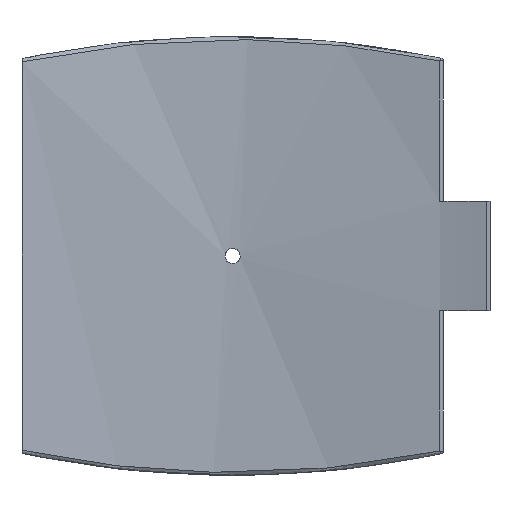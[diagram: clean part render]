
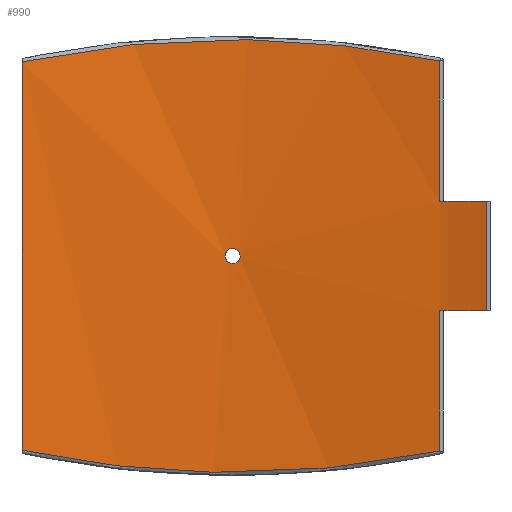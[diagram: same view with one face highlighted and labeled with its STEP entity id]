
A CAD part, front view. The second image highlights one B-rep face of the part: STEP entity #990.
In plain terms, the highlighted cylindrical face has radius 600 mm (diameter 1200 mm), a partial arc.
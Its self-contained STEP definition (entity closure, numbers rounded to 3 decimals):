
#55=FACE_BOUND('',#331,.T.);
#101=B_SPLINE_CURVE_WITH_KNOTS('',3,(#2008,#2009,#2010,#2011,#2012,#2013,
#2014),.UNSPECIFIED.,.F.,.F.,(4,1,1,1,4),(-32.825,-24.503,
-16.181,-12.02,-3.698),.UNSPECIFIED.);
#102=B_SPLINE_CURVE_WITH_KNOTS('',3,(#2023,#2024,#2025,#2026,#2027,#2028,
#2029),.UNSPECIFIED.,.F.,.F.,(4,1,1,1,4),(-29.583,-21.261,
-12.939,-8.779,-0.457),.UNSPECIFIED.);
#103=B_SPLINE_CURVE_WITH_KNOTS('',3,(#2032,#2033,#2034,#2035,#2036,#2037,
#2038,#2039,#2040,#2041),.UNSPECIFIED.,.F.,.F.,(4,2,2,2,4),(0.,0.196,
0.392,0.588,0.784),.UNSPECIFIED.);
#104=B_SPLINE_CURVE_WITH_KNOTS('',3,(#2042,#2043,#2044,#2045,#2046,#2047,
#2048,#2049,#2050,#2051,#2052,#2053,#2054,#2055,#2056,#2057,#2058,#2059,
#2060,#2061,#2062,#2063,#2064,#2065,#2066,#2067),.UNSPECIFIED.,.F.,.F.,
(4,2,2,2,2,2,2,2,2,2,2,2,4),(0.784,0.979,1.175,
1.371,1.567,1.763,1.959,2.155,
2.351,2.546,2.742,2.938,3.134),
 .UNSPECIFIED.);
#125=LINE('',#1483,#172);
#136=LINE('',#1746,#183);
#143=LINE('',#2019,#190);
#144=LINE('',#2022,#191);
#172=VECTOR('',#1188,10.);
#183=VECTOR('',#1227,10.);
#190=VECTOR('',#1264,10.);
#191=VECTOR('',#1267,10.);
#228=CYLINDRICAL_SURFACE('',#1083,600.);
#268=FACE_OUTER_BOUND('',#330,.T.);
#330=EDGE_LOOP('',(#775,#776,#777,#778,#779,#780,#781,#782));
#331=EDGE_LOOP('',(#783,#784));
#413=CIRCLE('',#1084,600.);
#414=CIRCLE('',#1085,600.);
#466=VERTEX_POINT('',#1474);
#469=VERTEX_POINT('',#1481);
#489=VERTEX_POINT('',#1739);
#492=VERTEX_POINT('',#1744);
#505=VERTEX_POINT('',#1997);
#506=VERTEX_POINT('',#2016);
#507=VERTEX_POINT('',#2018);
#508=VERTEX_POINT('',#2021);
#509=VERTEX_POINT('',#2030);
#510=VERTEX_POINT('',#2031);
#561=EDGE_CURVE('',#469,#466,#125,.T.);
#591=EDGE_CURVE('',#492,#489,#136,.T.);
#614=EDGE_CURVE('',#505,#492,#101,.T.);
#615=EDGE_CURVE('',#506,#469,#413,.T.);
#616=EDGE_CURVE('',#506,#507,#143,.T.);
#617=EDGE_CURVE('',#489,#507,#414,.T.);
#618=EDGE_CURVE('',#508,#505,#144,.T.);
#619=EDGE_CURVE('',#466,#508,#102,.T.);
#620=EDGE_CURVE('',#509,#510,#103,.T.);
#621=EDGE_CURVE('',#510,#509,#104,.T.);
#775=ORIENTED_EDGE('',*,*,#615,.F.);
#776=ORIENTED_EDGE('',*,*,#616,.T.);
#777=ORIENTED_EDGE('',*,*,#617,.F.);
#778=ORIENTED_EDGE('',*,*,#591,.F.);
#779=ORIENTED_EDGE('',*,*,#614,.F.);
#780=ORIENTED_EDGE('',*,*,#618,.F.);
#781=ORIENTED_EDGE('',*,*,#619,.F.);
#782=ORIENTED_EDGE('',*,*,#561,.F.);
#783=ORIENTED_EDGE('',*,*,#620,.T.);
#784=ORIENTED_EDGE('',*,*,#621,.T.);
#990=ADVANCED_FACE('',(#268,#55),#228,.F.);
#1083=AXIS2_PLACEMENT_3D('',#2015,#1260,#1261);
#1084=AXIS2_PLACEMENT_3D('',#2017,#1262,#1263);
#1085=AXIS2_PLACEMENT_3D('',#2020,#1265,#1266);
#1188=DIRECTION('',(0.,0.,-1.));
#1227=DIRECTION('',(0.,0.,-1.));
#1260=DIRECTION('center_axis',(0.,0.,1.));
#1261=DIRECTION('ref_axis',(-1.,0.,0.));
#1262=DIRECTION('center_axis',(0.,0.,1.));
#1263=DIRECTION('ref_axis',(-0.29,-0.957,0.));
#1264=DIRECTION('',(0.,0.,1.));
#1265=DIRECTION('center_axis',(0.,0.,-1.));
#1266=DIRECTION('ref_axis',(-0.29,-0.957,0.));
#1267=DIRECTION('',(0.,0.,1.));
#1474=CARTESIAN_POINT('',(141.528,583.069,-133.375));
#1481=CARTESIAN_POINT('',(141.528,583.069,-37.5));
#1483=CARTESIAN_POINT('',(141.528,583.069,0.));
#1739=CARTESIAN_POINT('',(141.528,583.069,37.5));
#1744=CARTESIAN_POINT('',(141.528,583.069,133.375));
#1746=CARTESIAN_POINT('',(141.528,583.069,0.));
#1997=CARTESIAN_POINT('',(-144.,582.464,132.854));
#2008=CARTESIAN_POINT('Ctrl Pts',(-144.,582.464,132.854));
#2009=CARTESIAN_POINT('Ctrl Pts',(-117.713,588.963,138.445));
#2010=CARTESIAN_POINT('Ctrl Pts',(-63.657,598.534,146.726));
#2011=CARTESIAN_POINT('Ctrl Pts',(5.671,601.091,148.946));
#2012=CARTESIAN_POINT('Ctrl Pts',(74.599,596.463,144.934));
#2013=CARTESIAN_POINT('Ctrl Pts',(115.198,589.46,138.875));
#2014=CARTESIAN_POINT('Ctrl Pts',(141.528,583.069,133.375));
#2015=CARTESIAN_POINT('Origin',(0.,0.,0.));
#2016=CARTESIAN_POINT('',(173.794,574.278,-37.5));
#2017=CARTESIAN_POINT('Origin',(0.,0.,
-37.5));
#2018=CARTESIAN_POINT('',(173.794,574.278,37.5));
#2019=CARTESIAN_POINT('',(173.794,574.278,0.));
#2020=CARTESIAN_POINT('Origin',(0.,0.,
37.5));
#2021=CARTESIAN_POINT('',(-144.,582.464,-132.854));
#2022=CARTESIAN_POINT('',(-144.,582.464,0.));
#2023=CARTESIAN_POINT('Ctrl Pts',(141.528,583.069,-133.375));
#2024=CARTESIAN_POINT('Ctrl Pts',(115.198,589.46,-138.875));
#2025=CARTESIAN_POINT('Ctrl Pts',(61.064,598.805,-146.962));
#2026=CARTESIAN_POINT('Ctrl Pts',(-8.28,601.06,-148.92));
#2027=CARTESIAN_POINT('Ctrl Pts',(-77.173,596.134,-144.649));
#2028=CARTESIAN_POINT('Ctrl Pts',(-117.713,588.963,-138.445));
#2029=CARTESIAN_POINT('Ctrl Pts',(-144.,582.464,-132.854));
#2030=CARTESIAN_POINT('',(5.2,599.977,0.));
#2031=CARTESIAN_POINT('',(0.,600.,-5.2));
#2032=CARTESIAN_POINT('Ctrl Pts',(5.2,599.977,0.));
#2033=CARTESIAN_POINT('Ctrl Pts',(5.2,599.977,-0.653));
#2034=CARTESIAN_POINT('Ctrl Pts',(5.07,599.979,-1.349));
#2035=CARTESIAN_POINT('Ctrl Pts',(4.539,599.983,-2.631));
#2036=CARTESIAN_POINT('Ctrl Pts',(4.139,599.986,-3.215));
#2037=CARTESIAN_POINT('Ctrl Pts',(3.215,599.992,-4.139));
#2038=CARTESIAN_POINT('Ctrl Pts',(2.631,599.995,-4.539));
#2039=CARTESIAN_POINT('Ctrl Pts',(1.349,599.999,-5.07));
#2040=CARTESIAN_POINT('Ctrl Pts',(0.653,600.,-5.2));
#2041=CARTESIAN_POINT('Ctrl Pts',(0.,600.,-5.2));
#2042=CARTESIAN_POINT('Ctrl Pts',(0.,600.,-5.2));
#2043=CARTESIAN_POINT('Ctrl Pts',(-0.653,600.,-5.2));
#2044=CARTESIAN_POINT('Ctrl Pts',(-1.349,599.999,-5.07));
#2045=CARTESIAN_POINT('Ctrl Pts',(-2.631,599.995,-4.539));
#2046=CARTESIAN_POINT('Ctrl Pts',(-3.215,599.992,-4.139));
#2047=CARTESIAN_POINT('Ctrl Pts',(-4.139,599.986,-3.215));
#2048=CARTESIAN_POINT('Ctrl Pts',(-4.539,599.983,-2.631));
#2049=CARTESIAN_POINT('Ctrl Pts',(-5.07,599.979,-1.349));
#2050=CARTESIAN_POINT('Ctrl Pts',(-5.2,599.977,-0.653));
#2051=CARTESIAN_POINT('Ctrl Pts',(-5.2,599.977,0.653));
#2052=CARTESIAN_POINT('Ctrl Pts',(-5.07,599.979,1.349));
#2053=CARTESIAN_POINT('Ctrl Pts',(-4.539,599.983,2.631));
#2054=CARTESIAN_POINT('Ctrl Pts',(-4.139,599.986,3.215));
#2055=CARTESIAN_POINT('Ctrl Pts',(-3.215,599.992,4.139));
#2056=CARTESIAN_POINT('Ctrl Pts',(-2.631,599.995,4.539));
#2057=CARTESIAN_POINT('Ctrl Pts',(-1.349,599.999,5.07));
#2058=CARTESIAN_POINT('Ctrl Pts',(-0.653,600.,5.2));
#2059=CARTESIAN_POINT('Ctrl Pts',(0.653,600.,5.2));
#2060=CARTESIAN_POINT('Ctrl Pts',(1.349,599.999,5.07));
#2061=CARTESIAN_POINT('Ctrl Pts',(2.631,599.995,4.539));
#2062=CARTESIAN_POINT('Ctrl Pts',(3.215,599.992,4.139));
#2063=CARTESIAN_POINT('Ctrl Pts',(4.139,599.986,3.215));
#2064=CARTESIAN_POINT('Ctrl Pts',(4.539,599.983,2.631));
#2065=CARTESIAN_POINT('Ctrl Pts',(5.07,599.979,1.349));
#2066=CARTESIAN_POINT('Ctrl Pts',(5.2,599.977,0.653));
#2067=CARTESIAN_POINT('Ctrl Pts',(5.2,599.977,0.));
